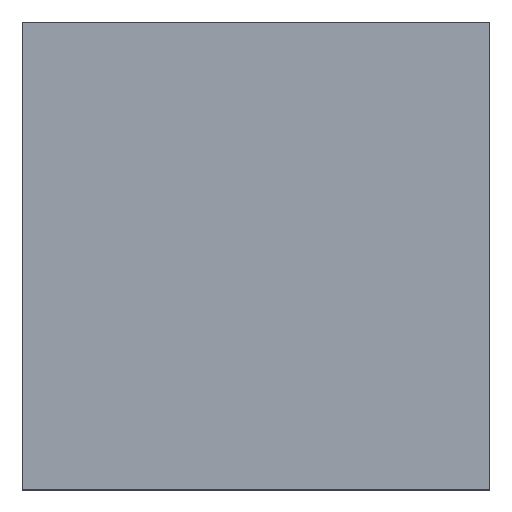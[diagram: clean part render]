
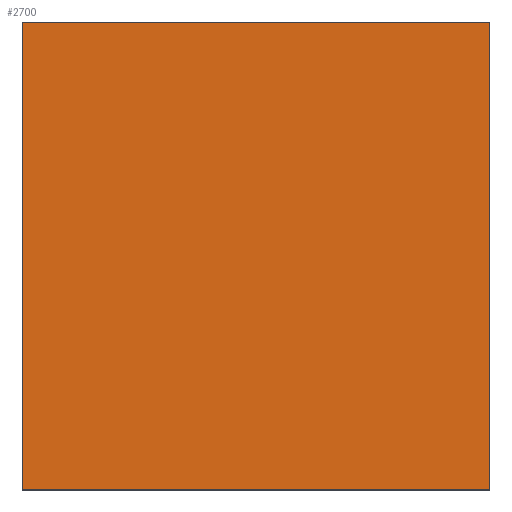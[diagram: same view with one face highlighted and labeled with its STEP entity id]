
A CAD part, top view. The second image highlights one B-rep face of the part: STEP entity #2700.
In plain terms, the highlighted planar face has unit normal (0, 0, 1).
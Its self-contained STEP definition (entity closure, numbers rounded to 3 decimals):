
#120 = CARTESIAN_POINT ('', (6.25, -6.25, 5.));
#130 = VERTEX_POINT ('', #120);
#190 = CARTESIAN_POINT ('', (-6.25, -6.25, 5.));
#200 = VERTEX_POINT ('', #190);
#210 = CARTESIAN_POINT ('', (-6.25, -6.25, 5.));
#220 = CARTESIAN_POINT ('', (-2.083, -6.25, 5.));
#230 = CARTESIAN_POINT ('', (2.083, -6.25, 5.));
#240 = CARTESIAN_POINT ('', (6.25, -6.25, 5.));
#250 = B_SPLINE_CURVE_WITH_KNOTS ('', 3, (#210, #220, #230, #240), .UNSPECIFIED., .F., .U., (4, 4), (0., 12.5), .UNSPECIFIED.);
#260 = EDGE_CURVE ('', #200, #130, #250, .T.);
#600 = CARTESIAN_POINT ('', (6.25, 6.25, 5.));
#610 = VERTEX_POINT ('', #600);
#670 = CARTESIAN_POINT ('', (6.25, -6.25, 5.));
#680 = CARTESIAN_POINT ('', (6.25, -2.083, 5.));
#690 = CARTESIAN_POINT ('', (6.25, 2.083, 5.));
#700 = CARTESIAN_POINT ('', (6.25, 6.25, 5.));
#710 = B_SPLINE_CURVE_WITH_KNOTS ('', 3, (#670, #680, #690, #700), .UNSPECIFIED., .F., .U., (4, 4), (0., 12.5), .UNSPECIFIED.);
#720 = EDGE_CURVE ('', #130, #610, #710, .T.);
#1160 = CARTESIAN_POINT ('', (-6.25, 6.25, 5.));
#1170 = VERTEX_POINT ('', #1160);
#1230 = CARTESIAN_POINT ('', (6.25, 6.25, 5.));
#1240 = CARTESIAN_POINT ('', (2.083, 6.25, 5.));
#1250 = CARTESIAN_POINT ('', (-2.083, 6.25, 5.));
#1260 = CARTESIAN_POINT ('', (-6.25, 6.25, 5.));
#1270 = B_SPLINE_CURVE_WITH_KNOTS ('', 3, (#1230, #1240, #1250, #1260), .UNSPECIFIED., .F., .U., (4, 4), (0., 12.5), .UNSPECIFIED.);
#1280 = EDGE_CURVE ('', #610, #1170, #1270, .T.);
#1570 = CARTESIAN_POINT ('', (-6.25, 6.25, 5.));
#1580 = CARTESIAN_POINT ('', (-6.25, 2.083, 5.));
#1590 = CARTESIAN_POINT ('', (-6.25, -2.083, 5.));
#1600 = CARTESIAN_POINT ('', (-6.25, -6.25, 5.));
#1610 = B_SPLINE_CURVE_WITH_KNOTS ('', 3, (#1570, #1580, #1590, #1600), .UNSPECIFIED., .F., .U., (4, 4), (0., 12.5), .UNSPECIFIED.);
#1620 = EDGE_CURVE ('', #1170, #200, #1610, .T.);
#2590 = ORIENTED_EDGE ('', *, *, #260, .T.);
#2600 = ORIENTED_EDGE ('', *, *, #720, .T.);
#2610 = ORIENTED_EDGE ('', *, *, #1280, .T.);
#2620 = ORIENTED_EDGE ('', *, *, #1620, .T.);
#2630 = EDGE_LOOP ('', (#2590, #2600, #2610, #2620));
#2640 = FACE_OUTER_BOUND ('', #2630, .T.);
#2650 = CARTESIAN_POINT ('', (0., 12.954, 5.));
#2660 = DIRECTION ('', (0., 0., 1.));
#2670 = DIRECTION ('', (-0.707, -0.707, 0.));
#2680 = AXIS2_PLACEMENT_3D ('', #2650, #2660, #2670);
#2690 = PLANE ('', #2680);
#2700 = ADVANCED_FACE ('', (#2640), #2690, .T.);
